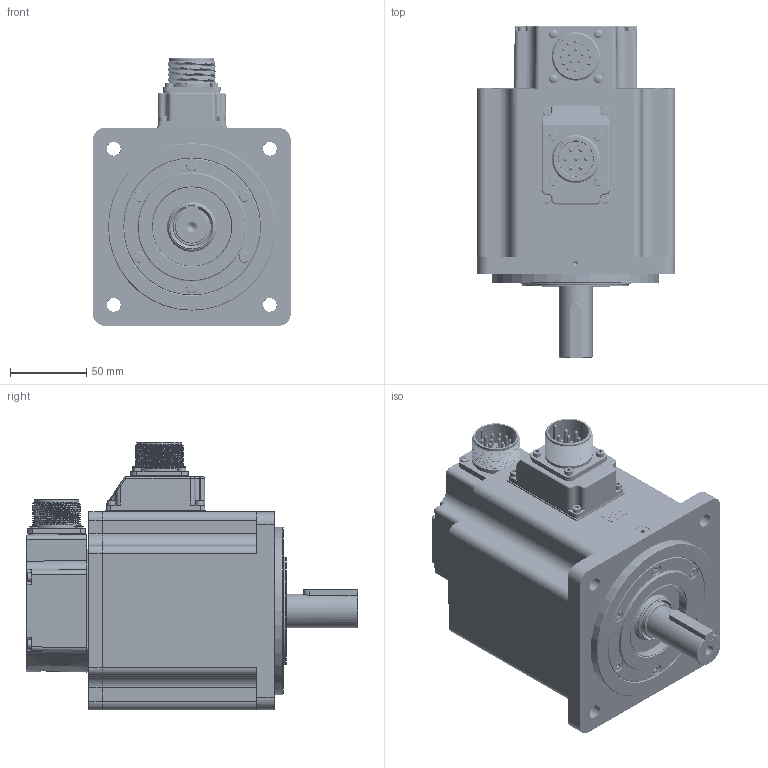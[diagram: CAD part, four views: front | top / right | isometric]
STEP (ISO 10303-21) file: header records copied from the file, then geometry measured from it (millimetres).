
FILE_DESCRIPTION( ( 'Unknown' ), '1' );
FILE_NAME( 'X:/05_Progetto TCE/010-TCE motor drawings/TCE130/Vuoti/TCE130 5F XX 3 A2 0 C3.stp', 'Unknown', ( 'Unknown' ), ( 'Unknown' ), 'PSStep 17.0.49', 'Unknown', ' ' );
FILE_SCHEMA( ( 'AUTOMOTIVE_DESIGN { 1 0 10303 214 1 1 1 1 }' ) );
Length unit declared in the file: millimetre
Products named in the file (50): back cover TCE100 + CN MIL; 003303000373; 003108015154; 005911000525; 005911000525-oa3; 005911000525-oa4; 005911000525-oa5; 001107000620; U5160002_vuoto; 003120002514; 003799000580; 003303000370; 005117001750; cap-M3 nudo; 005911000150; 005911000201; Assem1; 005123001528; 005123000600; 005204000002; 005204000001; 005911003623; 003155000301; 005911000430; 005113002005; 003103001509; 005119000340; 005204000003; 005008000302-oa0; 005008000842-oa1; 005008000690-oa2; 005911000493; 003251022006; 003003050019
Assembly tree (75 placements, depth 3):
  Assem1
    005123001528
    005123001528
    005123001528
    005123001528
    005123001528
    005123001528
    005123001528
    005123000600
    005123000600
    005123000600
    005123000600
    005123000600
    005123000600
    005123000600
    005204000002
    005204000001
    005911003623  x8
    003155000301
    005911000430  x10
    005113002005
    003103001509
    005119000340
    005119000340
    005204000003
    005008000302-oa0
    005008000842-oa1
    005008000690-oa2
    005911000493  x4
    003251022006
    003003050019
    back cover TCE100 + CN MIL
      003303000373
      003108015154
      005911000525
      005911000525-oa3
      005911000525-oa4
      005911000525-oa5
      001107000620
    U5160002_vuoto
      003120002514
      003120002514
      003799000580
      003303000370
      003303000373
      005117001750
      005117001750
      cap-M3 nudo
      005911000150
      005911000201  x8
Bounding box: 130.3 x 218 x 175.8 mm (x, y, z)
Volume: 970654.2 mm3; surface area: 363976.3 mm2
Topology: 73 solids, 83 shells, 3011 faces, 7455 edges, 4801 vertices
Faces by surface type: plane 1528, cylinder 707, extrusion 233, cone 173, torus 154, bspline 144, sphere 72
Full cylindrical faces by diameter (mm): 2 x34, 2.224 x1, 2.4 x8, 2.459 x24, 2.5 x1, 2.6 x1, 2.8 x7, 2.9 x4, 3 x30, 3.048 x4, 3.2 x5, 3.242 x24, 3.5 x11, 3.6 x1, 3.7 x8, 3.8 x2, 4 x23, 4.134 x16, 4.5 x6, 4.7 x11, 5 x8, 5.1 x1, 5.5 x34, 5.6 x4, 5.8 x6, 6.647 x2, 7 x10, 8 x11, 8.5 x8, 10 x1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
Entity records: 119956 total; most frequent: CARTESIAN_POINT 40171, ORIENTED_EDGE 11548, DIRECTION 11366, EDGE_CURVE 5774, VERTEX_POINT 4078, AXIS2_PLACEMENT_3D 3976, EDGE_LOOP 3535, VECTOR 3414
